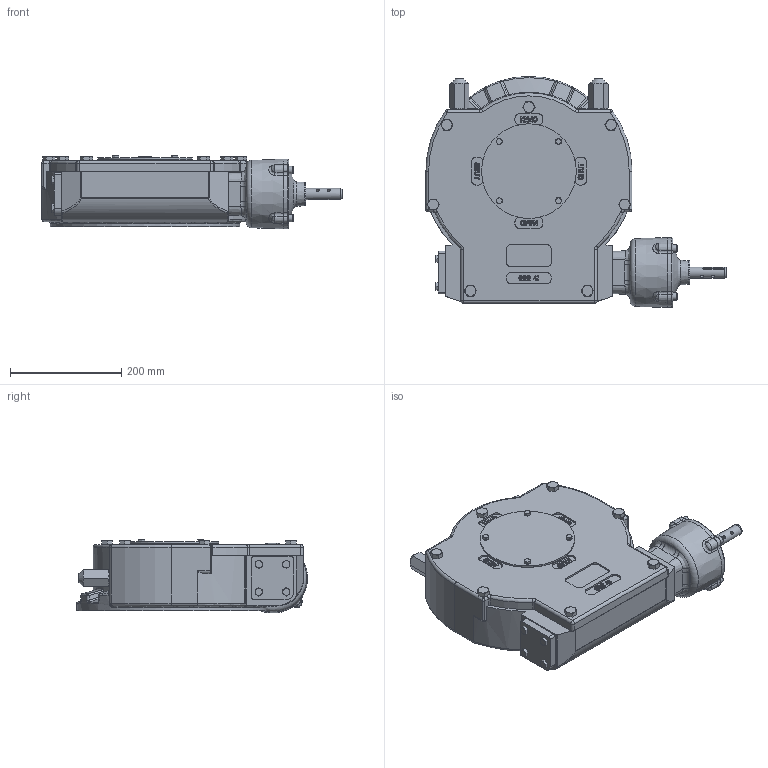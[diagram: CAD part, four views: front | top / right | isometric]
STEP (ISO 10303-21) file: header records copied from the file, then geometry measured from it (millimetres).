
FILE_DESCRIPTION( ( 'Unknown' ), '1' );
FILE_NAME( 'M:/Current Drawings/Internet datasheets/4 - STEP/AB6800G-PR6 BU LH.stp', 'Unknown', ( 'Unknown' ), ( 'Unknown' ), 'PSStep 15.0.49', 'Unknown', ' ' );
FILE_SCHEMA( ( 'AUTOMOTIVE_DESIGN { 1 0 10303 214 1 1 1 1 }' ) );
Length unit declared in the file: millimetre
Products named in the file (1): 12FZ10P010M00
Bounding box: 539 x 414.69 x 132.69 mm (x, y, z)
Volume: 8766650.3 mm3; surface area: 1171528.1 mm2
Topology: 1 solids, 52 shells, 2679 faces, 6990 edges, 4423 vertices
Faces by surface type: cylinder 855, plane 841, cone 463, torus 304, bspline 98, sphere 80, extrusion 38
Full cylindrical faces by diameter (mm): 4.917 x8, 6 x6, 6.647 x22, 7 x4, 8 x10, 8.5 x4, 9 x8, 10 x4, 10.106 x14, 12 x7, 13.27 x4, 13.835 x16, 14 x11, 17.294 x18, 19 x1, 20 x5, 23 x1, 25 x2, 26 x3, 29 x1, 30 x1, 35 x1, 38 x2, 102 x1, 104.555 x1, 110 x3, 110.25 x1, 125.95 x2, 130 x6, 140 x1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
Entity records: 124236 total; most frequent: CARTESIAN_POINT 41408, ORIENTED_EDGE 12948, DIRECTION 12332, EDGE_CURVE 6474, AXIS2_PLACEMENT_3D 5127, VERTEX_POINT 4291, EDGE_LOOP 3089, FACE_OUTER_BOUND 2878
